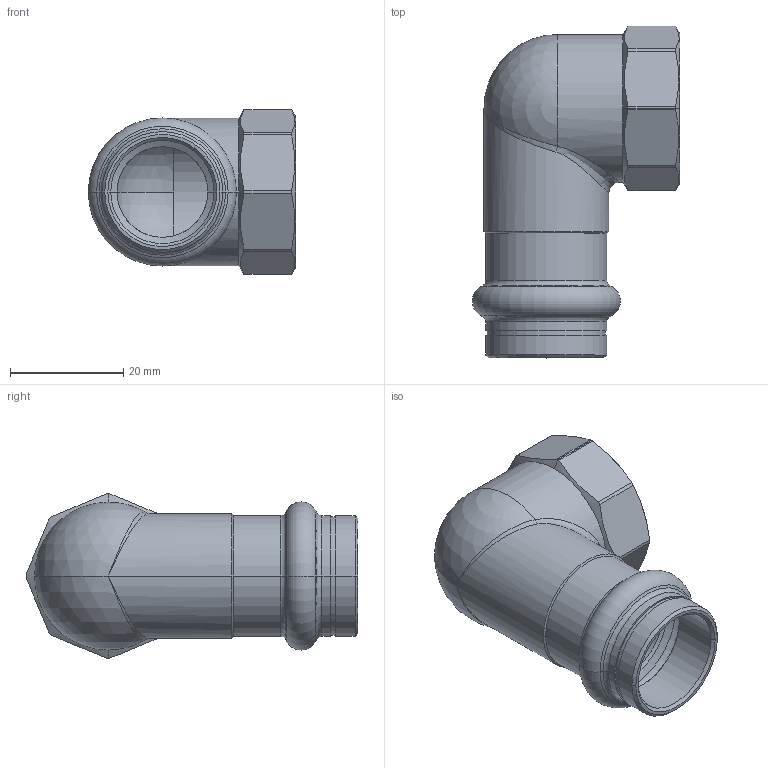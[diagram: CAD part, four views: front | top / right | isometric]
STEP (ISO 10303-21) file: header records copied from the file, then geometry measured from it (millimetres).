
FILE_DESCRIPTION (( 'STEP AP203' ), '1' );
FILE_NAME ('SP4090G Ø18 1-2.STEP', '2017-04-28T08:50:34', ( '' ), ( '' ), 'SwSTEP 2.0', 'SolidWorks 2016', '' );
FILE_SCHEMA (( 'CONFIG_CONTROL_DESIGN' ));
Length unit declared in the file: millimetre
Products named in the file (1): SP4090G Ø18 1-2
Bounding box: 36.55 x 58.5 x 29 mm (x, y, z)
Volume: 11889.4 mm3; surface area: 9558.3 mm2
Topology: 1 solids, 1 shells, 89 faces, 211 edges, 121 vertices
Faces by surface type: cylinder 31, cone 26, plane 13, torus 10, bspline 5, sphere 4
Entity records: 3592 total; most frequent: CARTESIAN_POINT 1513, DIRECTION 449, ORIENTED_EDGE 406, EDGE_CURVE 203, AXIS2_PLACEMENT_3D 192, VERTEX_POINT 119, CIRCLE 107, EDGE_LOOP 94
